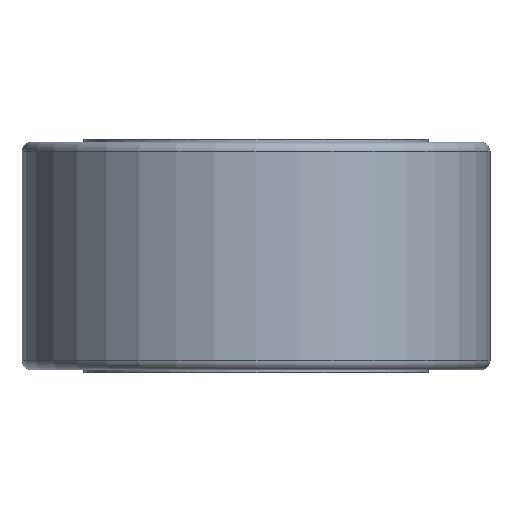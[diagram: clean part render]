
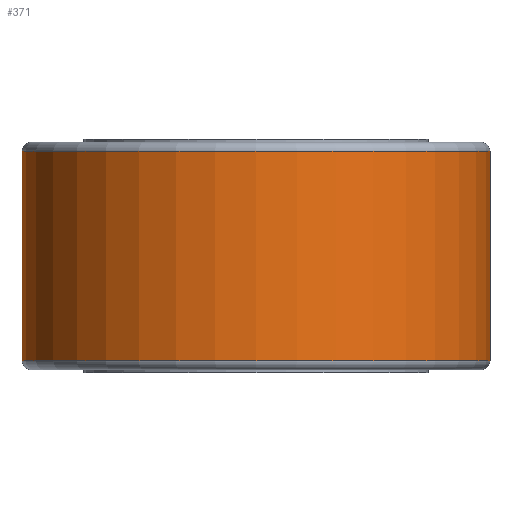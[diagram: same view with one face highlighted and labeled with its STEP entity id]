
A CAD part, front view. The second image highlights one B-rep face of the part: STEP entity #371.
In plain terms, the highlighted cylindrical face has radius 75 mm (diameter 150 mm), a partial arc.
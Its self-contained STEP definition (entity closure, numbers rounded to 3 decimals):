
#2 = EDGE_CURVE ( 'NONE', #525, #361, #52, .T. ) ;
#29 = DIRECTION ( 'NONE',  ( 0., 0., -1. ) ) ;
#48 = DIRECTION ( 'NONE',  ( 0., 0., -1. ) ) ;
#52 = CIRCLE ( 'NONE', #309, 75. ) ;
#61 = ORIENTED_EDGE ( 'NONE', *, *, #373, .F. ) ;
#95 = CYLINDRICAL_SURFACE ( 'NONE', #189, 75. ) ;
#100 = VERTEX_POINT ( 'NONE', #517 ) ;
#131 = CARTESIAN_POINT ( 'NONE',  ( 75., 0., 3. ) ) ;
#137 = AXIS2_PLACEMENT_3D ( 'NONE', #454, #48, #439 ) ;
#166 = DIRECTION ( 'NONE',  ( 0., 0., -1. ) ) ;
#175 = ORIENTED_EDGE ( 'NONE', *, *, #2, .T. ) ;
#189 = AXIS2_PLACEMENT_3D ( 'NONE', #243, #491, #556 ) ;
#191 = CARTESIAN_POINT ( 'NONE',  ( -75., 0., 3. ) ) ;
#243 = CARTESIAN_POINT ( 'NONE',  ( 0., 0., 73. ) ) ;
#247 = CARTESIAN_POINT ( 'NONE',  ( 75., 0., 73. ) ) ;
#263 = LINE ( 'NONE', #340, #275 ) ;
#275 = VECTOR ( 'NONE', #29, 1000. ) ;
#308 = CARTESIAN_POINT ( 'NONE',  ( 75., 0., 70. ) ) ;
#309 = AXIS2_PLACEMENT_3D ( 'NONE', #388, #365, #516 ) ;
#340 = CARTESIAN_POINT ( 'NONE',  ( -75., 0., 73. ) ) ;
#361 = VERTEX_POINT ( 'NONE', #131 ) ;
#365 = DIRECTION ( 'NONE',  ( 0., 0., 1. ) ) ;
#371 = ADVANCED_FACE ( 'NONE', ( #550 ), #95, .T. ) ;
#373 = EDGE_CURVE ( 'NONE', #444, #361, #541, .T. ) ;
#375 = EDGE_CURVE ( 'NONE', #444, #100, #567, .T. ) ;
#388 = CARTESIAN_POINT ( 'NONE',  ( 0., 0., 3. ) ) ;
#412 = ORIENTED_EDGE ( 'NONE', *, *, #375, .T. ) ;
#416 = VECTOR ( 'NONE', #166, 1000. ) ;
#439 = DIRECTION ( 'NONE',  ( 1., 0., 0. ) ) ;
#444 = VERTEX_POINT ( 'NONE', #308 ) ;
#454 = CARTESIAN_POINT ( 'NONE',  ( 0., 0., 70. ) ) ;
#475 = EDGE_LOOP ( 'NONE', ( #61, #412, #504, #175 ) ) ;
#491 = DIRECTION ( 'NONE',  ( 0., 0., -1. ) ) ;
#504 = ORIENTED_EDGE ( 'NONE', *, *, #528, .T. ) ;
#516 = DIRECTION ( 'NONE',  ( 1., 0., 0. ) ) ;
#517 = CARTESIAN_POINT ( 'NONE',  ( -75., 0., 70. ) ) ;
#525 = VERTEX_POINT ( 'NONE', #191 ) ;
#528 = EDGE_CURVE ( 'NONE', #100, #525, #263, .T. ) ;
#541 = LINE ( 'NONE', #247, #416 ) ;
#550 = FACE_OUTER_BOUND ( 'NONE', #475, .T. ) ;
#556 = DIRECTION ( 'NONE',  ( -1., 0., 0. ) ) ;
#567 = CIRCLE ( 'NONE', #137, 75. ) ;
